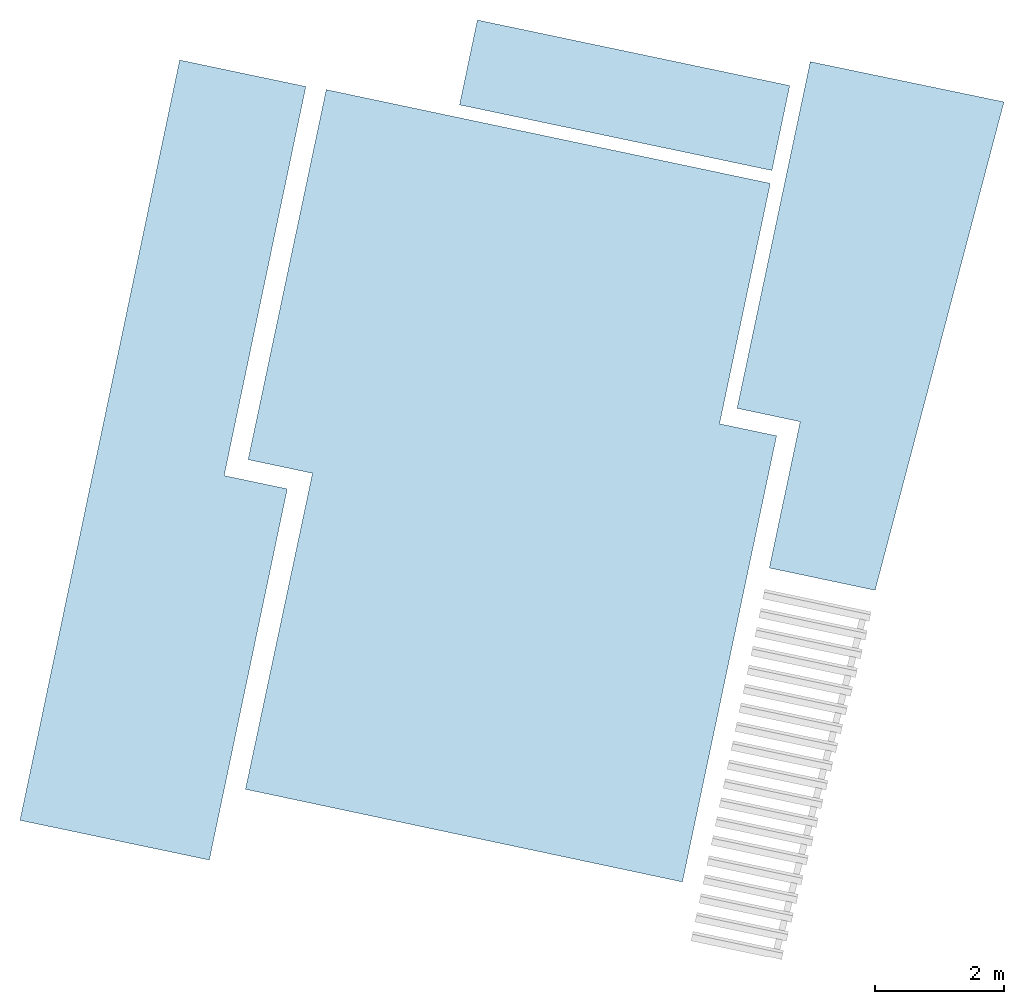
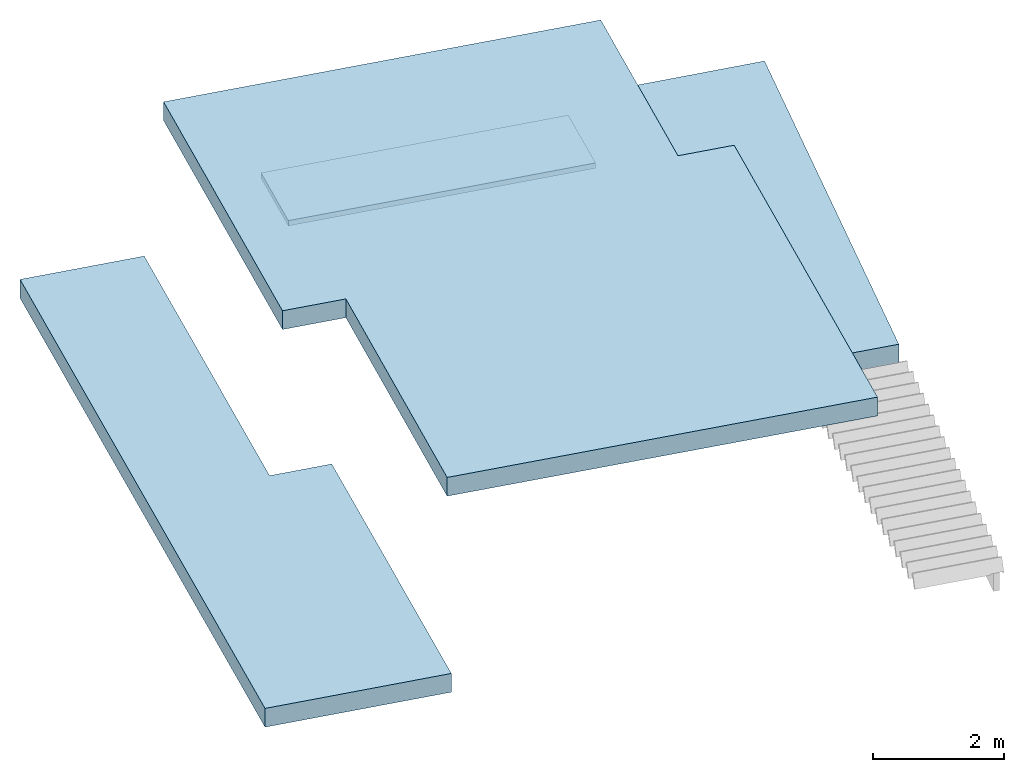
# One storey, part 2 of 2: 4 slabs.
"""IFC2X3 building model written with IfcOpenShell, lengths in metres."""

import ifcopenshell
import ifcopenshell.guid

model = None  # the IFC model being written
_history = None  # IfcOwnerHistory: only IFC2X3 demands one
_inside = {}  # id of a spatial element -> (the spatial element, [elements in it])
_under = {}  # id of a project, library or spatial element -> (it, [spatial elements below it])
_declared = {}  # id of a project -> (the project, [libraries it declares])
_typed = {}  # id of a type object -> (the type object, [elements of that type])
_made_of = {}  # id of a material, layer set ... -> (it, [elements and type objects made of it])


def new_model(schema):
    """Start an empty IFC model of exactly this schema.

    Asked for "IFC4X3", IfcOpenShell would pick the latest addendum, in which some entities
    have other attributes; the version numbers below select the first issue.
    IFC2X3 requires an IfcOwnerHistory on every rooted entity: one is made here for all.
    """
    global model, _history
    if schema == "IFC4X3":
        model = ifcopenshell.file(schema_version=(4, 3, 0, 0))
    else:
        model = ifcopenshell.file(schema=schema)
    _inside.clear()
    _under.clear()
    _declared.clear()
    _typed.clear()
    _made_of.clear()
    _history = None
    if model.schema == "IFC2X3":
        org = make("IfcOrganization", Name="unknown")
        user = make(
            "IfcPersonAndOrganization",
            ThePerson=make("IfcPerson", FamilyName="unknown"),
            TheOrganization=org,
        )
        app = make(
            "IfcApplication",
            ApplicationDeveloper=org,
            Version="unknown",
            ApplicationFullName="unknown",
            ApplicationIdentifier="unknown",
        )
        _history = make(
            "IfcOwnerHistory",
            OwningUser=user,
            OwningApplication=app,
            ChangeAction="ADDED",
            CreationDate=0,
        )
    return model


def make(cls, **values):
    """One entity of the class cls with the attributes given. An attribute that is None is left unset."""
    return model.create_entity(
        cls, **{name: value for name, value in values.items() if value is not None}
    )


def entity(cls, *values):
    """Any entity or typed value of the class cls, its attributes in the order of the schema. None: left unset."""
    e = model.create_entity(cls)
    for i, value in enumerate(values):
        if value is not None:
            e[i] = value
    return e


def rooted(cls, **values):
    """An entity with a GlobalId (a new one), such as an element, a storey or a relation."""
    return make(cls, GlobalId=ifcopenshell.guid.new(), OwnerHistory=_history, **values)


def si_unit(unit_type, name, prefix=None):
    """IfcSIUnit, for example si_unit("LENGTHUNIT", "METRE", prefix="MILLI")."""
    return make("IfcSIUnit", UnitType=unit_type, Prefix=prefix, Name=name)


def converted_unit(unit_type, name, factor, base, dimensions=None, offset=None):
    """IfcConversionBasedUnit, such as the inch: factor (a typed value) times the base unit."""
    return make(
        "IfcConversionBasedUnit"
        if offset is None
        else "IfcConversionBasedUnitWithOffset",
        ConversionOffset=offset,
        Dimensions=None
        if dimensions is None
        else entity("IfcDimensionalExponents", *dimensions),
        UnitType=unit_type,
        Name=name,
        ConversionFactor=make(
            "IfcMeasureWithUnit", ValueComponent=factor, UnitComponent=base
        ),
    )


def derived_unit(unit_type, elements):
    """IfcDerivedUnit: a product of units, each with its exponent."""
    return make(
        "IfcDerivedUnit",
        Elements=[
            make("IfcDerivedUnitElement", Unit=unit, Exponent=power)
            for unit, power in elements
        ],
        UnitType=unit_type,
    )


def assignment(units):
    """IfcUnitAssignment: the units of a project."""
    return None if units is None else make("IfcUnitAssignment", Units=units)


def point(xyz):
    """IfcCartesianPoint."""
    return None if xyz is None else make("IfcCartesianPoint", Coordinates=xyz)


def direction(xyz):
    """IfcDirection."""
    return None if xyz is None else make("IfcDirection", DirectionRatios=xyz)


def frame(location, z_axis=None, x_axis=None):
    """IfcAxis2Placement3D, a coordinate frame: its origin and axes. An axis left out is left unset."""
    return make(
        "IfcAxis2Placement3D",
        Location=point(location),
        Axis=direction(z_axis),
        RefDirection=direction(x_axis),
    )


def frame_2d(location, x_axis=None):
    """IfcAxis2Placement2D, a coordinate frame in the plane: its origin and x axis."""
    return make(
        "IfcAxis2Placement2D", Location=point(location), RefDirection=direction(x_axis)
    )


def origin():
    """The frame at (0, 0, 0) with its axes left unset."""
    return frame((0.0, 0.0, 0.0))


def place(relative_to, where):
    """IfcLocalPlacement: puts the frame where relative to a parent placement (None: the world)."""
    return make(
        "IfcLocalPlacement", PlacementRelTo=relative_to, RelativePlacement=where
    )


def context(
    kind, dimensions, precision=None, world=None, true_north=None, identifier=None
):
    """IfcGeometricRepresentationContext, for example the 3D "Model" context."""
    return make(
        "IfcGeometricRepresentationContext",
        ContextIdentifier=identifier,
        ContextType=kind,
        CoordinateSpaceDimension=dimensions,
        Precision=precision,
        WorldCoordinateSystem=world,
        TrueNorth=true_north,
    )


def subcontext(parent, identifier, kind, view, scale=None):
    """IfcGeometricRepresentationSubContext, for example "Body" below "Model"."""
    return make(
        "IfcGeometricRepresentationSubContext",
        ContextIdentifier=identifier,
        ContextType=kind,
        ParentContext=parent,
        TargetScale=scale,
        TargetView=view,
    )


def project(units=None, contexts=None):
    """IfcProject with its units and contexts."""
    return rooted(
        "IfcProject",
        Name="project",
        RepresentationContexts=contexts,
        UnitsInContext=assignment(units),
    )


def spatial(cls, under=None, at=None, **own):
    """A site, building, storey or space (cls), placed at a placement, below another one or the project."""
    s = rooted(cls, ObjectPlacement=at, **own)
    if under is not None:
        _under.setdefault(under.id(), (under, []))[1].append(s)
    return s


def polyline(points):
    """IfcPolyline through the points."""
    return make("IfcPolyline", Points=[point(p) for p in points])


def profile(cls, at=None, kind="AREA", **sizes):
    """A parametric profile (cls). Its sizes go by their IFC names, for example OverallWidth=200.0."""
    return make(cls, ProfileType=kind, Position=at, **sizes)


def rectangle(**sizes):
    """IfcRectangleProfileDef."""
    return profile("IfcRectangleProfileDef", **sizes)


def outline(outer, holes=None, kind="AREA"):
    """IfcArbitraryClosedProfileDef: a profile drawn as a closed curve; with holes, ...WithVoids."""
    if holes is None:
        return make("IfcArbitraryClosedProfileDef", ProfileType=kind, OuterCurve=outer)
    return make(
        "IfcArbitraryProfileDefWithVoids",
        ProfileType=kind,
        OuterCurve=outer,
        InnerCurves=holes,
    )


def extrude(swept, where, along, depth):
    """IfcExtrudedAreaSolid: the profile swept, set in the frame where, extruded along a direction by depth."""
    return make(
        "IfcExtrudedAreaSolid",
        SweptArea=swept,
        Position=where,
        ExtrudedDirection=direction(along),
        Depth=depth,
    )


def shape(context_of_items, identifier, shape_type, items):
    """IfcShapeRepresentation: the items that make up one representation, for example the "Body"."""
    return make(
        "IfcShapeRepresentation",
        ContextOfItems=context_of_items,
        RepresentationIdentifier=identifier,
        RepresentationType=shape_type,
        Items=items,
    )


def material(Name=None, Category=None):
    """IfcMaterial."""
    return make("IfcMaterial", Name=Name, Category=Category)


def layer(
    of_material, thickness, ventilated=None, Name=None, Category=None, Priority=None
):
    """IfcMaterialLayer: one layer of a wall or slab, of a material (None: an air gap)."""
    return make(
        "IfcMaterialLayer",
        Material=of_material,
        LayerThickness=thickness,
        IsVentilated=ventilated,
        Name=Name,
        Category=Category,
        Priority=Priority,
    )


def layer_set(layers, Name=None):
    """IfcMaterialLayerSet."""
    return make("IfcMaterialLayerSet", MaterialLayers=layers, LayerSetName=Name)


def layer_usage(for_layer_set, set_direction, sense, offset, extent=None):
    """IfcMaterialLayerSetUsage: how a layer set lies in its element."""
    return make(
        "IfcMaterialLayerSetUsage",
        ForLayerSet=for_layer_set,
        LayerSetDirection=set_direction,
        DirectionSense=sense,
        OffsetFromReferenceLine=offset,
        ReferenceExtent=extent,
    )


def made_of(thing, what):
    """Note that an element or type object is made of a material, layer set ...; save() writes the relation."""
    if what is not None:
        _made_of.setdefault(what.id(), (what, []))[1].append(thing)
    return thing


def type_object(cls, material=None, **own):
    """A type object (cls), such as IfcWallType, which elements share."""
    return made_of(rooted(cls, **own), material)


def element(
    cls,
    number,
    at=None,
    inside=None,
    cuts=None,
    type_object=None,
    material=None,
    context=None,
    identifier="Body",
    shape_type=None,
    held_by="IfcProductDefinitionShape",
    body=None,
    shapes=None,
    **own,
):
    """One element of the class cls, such as IfcWall. Its Tag is "e" and its number.

    at: its placement. inside: the storey or other place that contains it. cuts: it is an
    opening in that element (IfcRelVoidsElement). A single representation is given by context,
    identifier, shape_type and body (its items); several are given by shapes. held_by: the class
    of the entity that holds the representations. save() writes the other relations.
    """
    e = rooted(cls, Tag="e%d" % number, ObjectPlacement=at, **own)
    if body is not None:
        shapes = [shape(context, identifier, shape_type, body)]
    if shapes is not None:
        e.Representation = make(held_by, Representations=shapes)
    if inside is not None:
        _inside.setdefault(inside.id(), (inside, []))[1].append(e)
    if cuts is not None:
        rooted(
            "IfcRelVoidsElement", RelatingBuildingElement=cuts, RelatedOpeningElement=e
        )
    if type_object is not None:
        _typed.setdefault(type_object.id(), (type_object, []))[1].append(e)
    return made_of(e, material)


def aggregate(whole, parts):
    """IfcRelAggregates: a whole, such as a stair, and the parts it consists of."""
    return rooted("IfcRelAggregates", RelatingObject=whole, RelatedObjects=parts)


def save(model, path):
    """Write the relations noted so far, then the file.

    IfcRelAggregates (storeys below a building ...), IfcRelContainedInSpatialStructure (elements
    in a storey), IfcRelDefinesByType, IfcRelAssociatesMaterial and IfcRelDeclares: one each for
    every whole, place, type object, material and project.
    """
    for whole, parts in _under.values():
        aggregate(whole, parts)
    for where, things in _inside.values():
        rooted(
            "IfcRelContainedInSpatialStructure",
            RelatedElements=things,
            RelatingStructure=where,
        )
    for kind, things in _typed.values():
        rooted("IfcRelDefinesByType", RelatedObjects=things, RelatingType=kind)
    for what, things in _made_of.values():
        rooted("IfcRelAssociatesMaterial", RelatedObjects=things, RelatingMaterial=what)
    for by, libraries in _declared.values():
        rooted("IfcRelDeclares", RelatingContext=by, RelatedDefinitions=libraries)
    model.write(path)


model = new_model("IFC2X3")

# Units and contexts
model_context = context("Model", 3, precision=1e-05, world=origin(), true_north=direction((6.12303176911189e-17, 1.0)))
body_context = subcontext(model_context, "Body", "Model", "MODEL_VIEW")
ifc_project = project(units=[si_unit("LENGTHUNIT", "METRE"), si_unit("AREAUNIT", "SQUARE_METRE"), si_unit("VOLUMEUNIT", "CUBIC_METRE"), converted_unit("PLANEANGLEUNIT", "DEGREE", entity("IfcRatioMeasure", 0.0174532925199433), si_unit("PLANEANGLEUNIT", "RADIAN"), dimensions=[0, 0, 0, 0, 0, 0, 0]), si_unit("MASSUNIT", "GRAM", prefix="KILO"), derived_unit("MASSDENSITYUNIT", [(si_unit("MASSUNIT", "GRAM", prefix="KILO"), 1), (si_unit("LENGTHUNIT", "METRE"), -3)]), si_unit("TIMEUNIT", "SECOND"), si_unit("FREQUENCYUNIT", "HERTZ"), si_unit("THERMODYNAMICTEMPERATUREUNIT", "DEGREE_CELSIUS"), derived_unit("THERMALTRANSMITTANCEUNIT", [(si_unit("MASSUNIT", "GRAM", prefix="KILO"), 1), (si_unit("THERMODYNAMICTEMPERATUREUNIT", "KELVIN"), -1), (si_unit("TIMEUNIT", "SECOND"), -3)]), derived_unit("VOLUMETRICFLOWRATEUNIT", [(si_unit("LENGTHUNIT", "METRE"), 3), (si_unit("TIMEUNIT", "SECOND"), -1)]), si_unit("ELECTRICCURRENTUNIT", "AMPERE"), si_unit("ELECTRICVOLTAGEUNIT", "VOLT"), si_unit("POWERUNIT", "WATT"), si_unit("FORCEUNIT", "NEWTON", prefix="KILO"), si_unit("ILLUMINANCEUNIT", "LUX"), si_unit("LUMINOUSFLUXUNIT", "LUMEN"), si_unit("LUMINOUSINTENSITYUNIT", "CANDELA"), derived_unit("USERDEFINED", [(si_unit("MASSUNIT", "GRAM", prefix="KILO"), -1), (si_unit("LENGTHUNIT", "METRE"), -2), (si_unit("TIMEUNIT", "SECOND"), 3), (si_unit("LUMINOUSFLUXUNIT", "LUMEN"), 1)]), derived_unit("LINEARVELOCITYUNIT", [(si_unit("LENGTHUNIT", "METRE"), 1), (si_unit("TIMEUNIT", "SECOND"), -1)]), si_unit("PRESSUREUNIT", "PASCAL"), derived_unit("USERDEFINED", [(si_unit("LENGTHUNIT", "METRE"), -2), (si_unit("MASSUNIT", "GRAM", prefix="KILO"), 1), (si_unit("TIMEUNIT", "SECOND"), -2)])], contexts=[model_context])

# Site, building, storey
site_placement = place(None, origin())
site = spatial("IfcSite", under=ifc_project, at=site_placement, Name="Default", CompositionType="ELEMENT")
building_placement = place(site_placement, origin())
building = spatial("IfcBuilding", under=site, at=building_placement, CompositionType="ELEMENT")
storey_placement = place(building_placement, frame((0.0, 0.0, 2.82)))
storey = spatial("IfcBuildingStorey", under=building, at=storey_placement, Name="Etage 1", CompositionType="ELEMENT", Elevation=2.82)

# Slabs
ifc_material_1 = material(Name="gravillon")
ifc_layer_1 = layer(ifc_material_1, 0.05)
ifc_material_2 = material(Name="Isolant")
ifc_layer_2 = layer(ifc_material_2, 0.1)
ifc_material_3 = material(Name="Béton")
ifc_layer_3 = layer(ifc_material_3, 0.2)
ifc_layer_set_1 = layer_set([ifc_layer_1, ifc_layer_2, ifc_layer_3], Name="Sol:Dalle Béton + gravillon + isolant")
ifc_layer_usage_1 = layer_usage(ifc_layer_set_1, "AXIS3", "POSITIVE", 0.0)
slab_type_1 = type_object("IfcSlabType", Name="Sol:Dalle Béton + gravillon + isolant", PredefinedType="FLOOR", material=ifc_layer_set_1)
slab_1_placement = place(storey_placement, origin())
element("IfcSlab", 1, at=slab_1_placement, inside=storey, type_object=slab_type_1, material=ifc_layer_usage_1, Name="Sol:Dalle Béton + gravillon + isolant", ObjectType="Sol:Dalle Béton + gravillon + isolant", PredefinedType="FLOOR", context=body_context, shape_type="SweptSolid", body=[
    extrude(outline(polyline([(-4.52692539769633, -1.5531583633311), (3.30517322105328, -1.5531583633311), (3.3889511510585, 0.121715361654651), (1.07331190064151, 0.237544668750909), (1.123269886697, 1.23629598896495), (-4.36378076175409, 1.51076070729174), (-4.52692539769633, -1.5531583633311)])), frame((-9.55188219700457, 82.3880216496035, 0.179999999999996), z_axis=(0.0, 0.0, -1.0), x_axis=(-0.255167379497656, -0.966896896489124, 0.0)), (0.0, 0.0, 1.0), 0.35),
])
ifc_layer_usage_2 = layer_usage(ifc_layer_set_1, "AXIS3", "POSITIVE", 0.0)
slab_type_2 = type_object("IfcSlabType", Name="Sol:Dalle Béton + gravillon + isolant", PredefinedType="FLOOR", material=ifc_layer_set_1)
slab_2_placement = place(storey_placement, origin())
element("IfcSlab", 2, at=slab_2_placement, inside=storey, type_object=slab_type_2, material=ifc_layer_usage_2, Name="Sol:Dalle Béton + gravillon + isolant", ObjectType="Sol:Dalle Béton + gravillon + isolant", PredefinedType="FLOOR", context=body_context, shape_type="SweptSolid", body=[
    extrude(outline(polyline([(-5.13784081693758, 3.03834332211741), (-5.1378408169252, -3.99929120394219), (0.726524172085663, -3.9992912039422), (0.726524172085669, -2.97913799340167), (5.73588710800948, -2.983949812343), (5.74254040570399, 3.94249178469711), (-1.32789711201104, 3.94249178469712), (-1.32789711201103, 3.03834332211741), (-5.13784081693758, 3.03834332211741)])), frame((-14.5526268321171, 80.7064098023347, 2.98), z_axis=(0.0, 0.0, 1.0), x_axis=(-0.206544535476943, -0.978437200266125, 0.0)), (0.0, 0.0, -1.0), 0.349999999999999),
])
ifc_layer_usage_3 = layer_usage(ifc_layer_set_1, "AXIS3", "POSITIVE", 0.0)
slab_type_3 = type_object("IfcSlabType", Name="Sol:Dalle Béton + gravillon + isolant", PredefinedType="FLOOR", material=ifc_layer_set_1)
slab_3_placement = place(storey_placement, origin())
element("IfcSlab", 3, at=slab_3_placement, inside=storey, type_object=slab_type_3, material=ifc_layer_usage_3, Name="Sol:Dalle Béton + gravillon + isolant", ObjectType="Sol:Dalle Béton + gravillon + isolant", PredefinedType="FLOOR", context=body_context, shape_type="SweptSolid", body=[
    extrude(outline(polyline([(-6.07023469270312, 0.333333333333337), (-6.07023469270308, -1.66666666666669), (5.97580915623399, -1.66666666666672), (5.97580915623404, 1.33333333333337), (0.0944255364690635, 1.33333333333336), (0.0944255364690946, 0.333333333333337), (-6.07023469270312, 0.333333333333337)])), frame((-19.2936090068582, 80.7350841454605, 0.18), z_axis=(0.0, 0.0, 1.0), x_axis=(-0.205521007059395, -0.978652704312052, 0.0)), (0.0, 0.0, -1.0), 0.35),
])
ifc_layer_4 = layer(ifc_material_3, 0.1)
ifc_layer_set_2 = layer_set([ifc_layer_4], Name="Sol:Dalle Béton  terrasse - 10 cm 2")
ifc_layer_usage_4 = layer_usage(ifc_layer_set_2, "AXIS3", "POSITIVE", 0.0)
slab_type_4 = type_object("IfcSlabType", Name="Sol:Dalle Béton  terrasse - 10 cm 2", PredefinedType="FLOOR", material=ifc_layer_set_2)
slab_4_placement = place(storey_placement, origin())
element("IfcSlab", 4, at=slab_4_placement, inside=storey, type_object=slab_type_4, material=ifc_layer_usage_4, Name="Sol:Dalle Béton  terrasse - 10 cm 2", ObjectType="Sol:Dalle Béton  terrasse - 10 cm 2", PredefinedType="FLOOR", context=body_context, shape_type="SweptSolid", body=[
    extrude(rectangle(XDim=4.94996033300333, YDim=1.34499742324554, at=frame_2d((-3.77475828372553e-15, -7.99360577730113e-15), x_axis=(1.0, 0.0))), frame((-12.7772115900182, 86.4722946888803, 0.18), z_axis=(0.0, 0.0, -1.0), x_axis=(0.978652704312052, -0.205521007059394, 0.0)), (0.0, 0.0, 1.0), 0.1),
])

save(model, "model.ifc")
